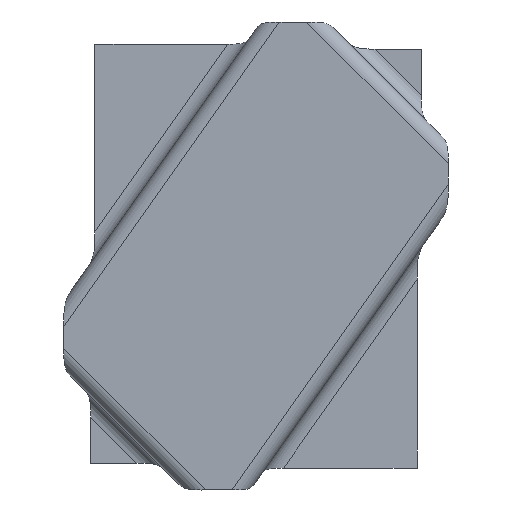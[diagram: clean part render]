
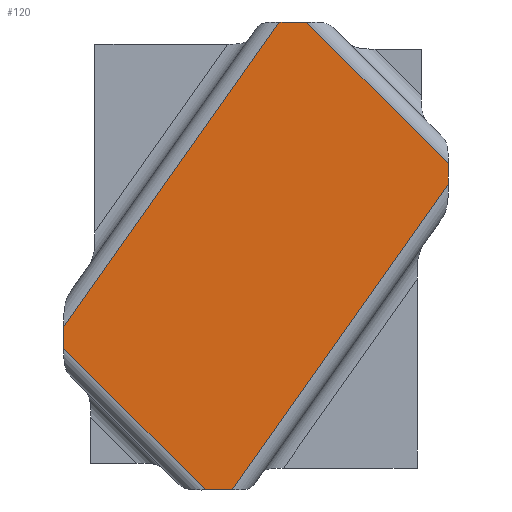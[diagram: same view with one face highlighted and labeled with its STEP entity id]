
A CAD part, top view. The second image highlights one B-rep face of the part: STEP entity #120.
In plain terms, the highlighted planar face has unit normal (0, 0, -1).
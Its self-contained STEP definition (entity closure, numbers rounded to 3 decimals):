
#53=CARTESIAN_POINT('Axis2P3D Location',(-52.345,36.989,64.595)) ;
#59=CARTESIAN_POINT('Control Point',(-52.345,76.127,64.595)) ;
#60=CARTESIAN_POINT('Control Point',(-0.858,148.989,64.595)) ;
#61=CARTESIAN_POINT('Vertex',(-52.345,76.127,64.595)) ;
#63=CARTESIAN_POINT('Vertex',(-0.858,148.989,64.595)) ;
#66=CARTESIAN_POINT('Line Origine',(-6.345,148.989,64.595)) ;
#70=CARTESIAN_POINT('Vertex',(5.829,148.989,64.595)) ;
#74=CARTESIAN_POINT('Control Point',(5.829,148.989,64.595)) ;
#75=CARTESIAN_POINT('Control Point',(39.655,115.163,64.595)) ;
#76=CARTESIAN_POINT('Vertex',(39.655,115.163,64.595)) ;
#79=CARTESIAN_POINT('Line Origine',(39.655,92.989,64.595)) ;
#83=CARTESIAN_POINT('Vertex',(39.655,110.14,64.595)) ;
#87=CARTESIAN_POINT('Control Point',(39.655,110.14,64.595)) ;
#88=CARTESIAN_POINT('Control Point',(-12.036,36.989,64.595)) ;
#89=CARTESIAN_POINT('Vertex',(-12.036,36.989,64.595)) ;
#92=CARTESIAN_POINT('Line Origine',(-6.345,36.989,64.595)) ;
#96=CARTESIAN_POINT('Vertex',(-18.519,36.989,64.595)) ;
#100=CARTESIAN_POINT('Control Point',(-52.345,70.815,64.595)) ;
#101=CARTESIAN_POINT('Control Point',(-18.519,36.989,64.595)) ;
#102=CARTESIAN_POINT('Vertex',(-52.345,70.815,64.595)) ;
#105=CARTESIAN_POINT('Line Origine',(-52.345,92.989,64.595)) ;
#54=DIRECTION('Axis2P3D Direction',(0.,0.,1.)) ;
#55=DIRECTION('Axis2P3D XDirection',(1.,0.,0.)) ;
#67=DIRECTION('Vector Direction',(1.,0.,0.)) ;
#80=DIRECTION('Vector Direction',(0.,1.,0.)) ;
#93=DIRECTION('Vector Direction',(1.,0.,0.)) ;
#106=DIRECTION('Vector Direction',(0.,1.,0.)) ;
#56=AXIS2_PLACEMENT_3D('Plane Axis2P3D',#53,#54,#55) ;
#111=ORIENTED_EDGE('',*,*,#65,.T.) ;
#112=ORIENTED_EDGE('',*,*,#72,.T.) ;
#113=ORIENTED_EDGE('',*,*,#78,.T.) ;
#114=ORIENTED_EDGE('',*,*,#85,.T.) ;
#115=ORIENTED_EDGE('',*,*,#91,.T.) ;
#116=ORIENTED_EDGE('',*,*,#98,.T.) ;
#117=ORIENTED_EDGE('',*,*,#104,.F.) ;
#118=ORIENTED_EDGE('',*,*,#109,.T.) ;
#68=VECTOR('Line Direction',#67,1.) ;
#81=VECTOR('Line Direction',#80,1.) ;
#94=VECTOR('Line Direction',#93,1.) ;
#107=VECTOR('Line Direction',#106,1.) ;
#120=ADVANCED_FACE('Offset.1',(#119),#57,.F.) ;
#58=B_SPLINE_CURVE_WITH_KNOTS('',1,(#59,#60),.UNSPECIFIED.,.F.,.U.,(2,2),(-44.609,44.609),.UNSPECIFIED.) ;
#73=B_SPLINE_CURVE_WITH_KNOTS('',1,(#74,#75),.UNSPECIFIED.,.F.,.U.,(2,2),(-23.919,23.919),.UNSPECIFIED.) ;
#86=B_SPLINE_CURVE_WITH_KNOTS('',1,(#87,#88),.UNSPECIFIED.,.F.,.U.,(2,2),(-44.786,44.786),.UNSPECIFIED.) ;
#99=B_SPLINE_CURVE_WITH_KNOTS('',1,(#100,#101),.UNSPECIFIED.,.F.,.U.,(2,2),(-23.919,23.919),.UNSPECIFIED.) ;
#65=EDGE_CURVE('',#62,#64,#58,.T.) ;
#72=EDGE_CURVE('',#64,#71,#69,.T.) ;
#78=EDGE_CURVE('',#71,#77,#73,.T.) ;
#85=EDGE_CURVE('',#77,#84,#82,.F.) ;
#91=EDGE_CURVE('',#84,#90,#86,.T.) ;
#98=EDGE_CURVE('',#90,#97,#95,.F.) ;
#104=EDGE_CURVE('',#103,#97,#99,.T.) ;
#109=EDGE_CURVE('',#103,#62,#108,.T.) ;
#110=EDGE_LOOP('',(#111,#112,#113,#114,#115,#116,#117,#118)) ;
#119=FACE_OUTER_BOUND('',#110,.T.) ;
#69=LINE('Line',#66,#68) ;
#82=LINE('Line',#79,#81) ;
#95=LINE('Line',#92,#94) ;
#108=LINE('Line',#105,#107) ;
#57=PLANE('',#56) ;
#62=VERTEX_POINT('',#61) ;
#64=VERTEX_POINT('',#63) ;
#71=VERTEX_POINT('',#70) ;
#77=VERTEX_POINT('',#76) ;
#84=VERTEX_POINT('',#83) ;
#90=VERTEX_POINT('',#89) ;
#97=VERTEX_POINT('',#96) ;
#103=VERTEX_POINT('',#102) ;
